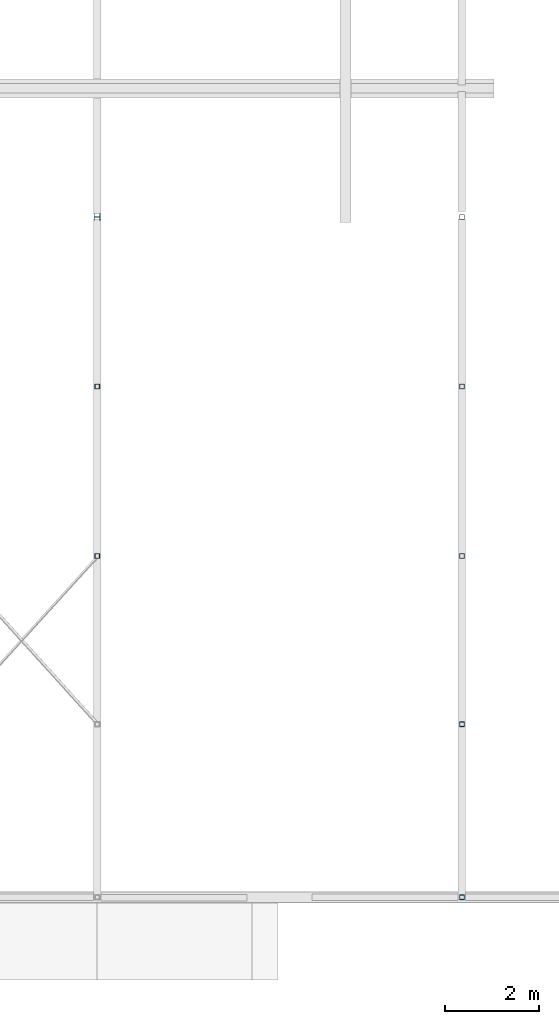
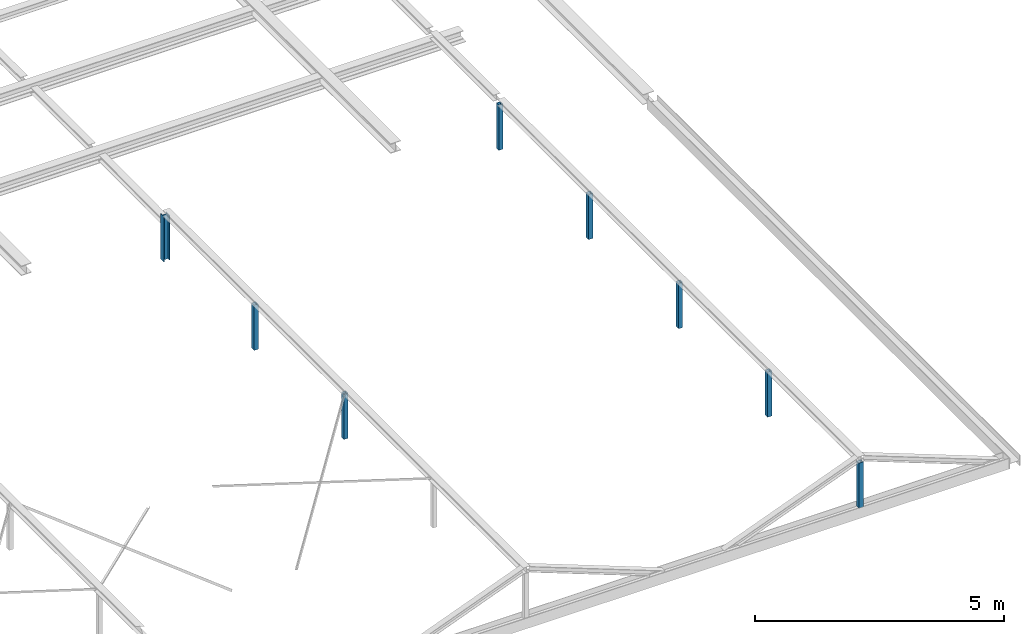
# One storey, part 2 of 10: 8 columns.
"""IFC2X3 building model written with IfcOpenShell, lengths in millimetres."""

from ifc_helpers import new_model, entity, si_unit, converted_unit, derived_unit, direction, frame, frame_2d, origin, place, context, subcontext, project, spatial, polyline, i_section, outline, extrude, source, transform, mapped, material, type_object, type_shapes, element, save


model = new_model("IFC2X3")

# Units and contexts
model_context = context("Model", 3, precision=0.01, world=origin(), true_north=direction((6.123031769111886e-17, 1.0)))
body_context = subcontext(model_context, "Body", "Model", "MODEL_VIEW")
ifc_project = project(units=[si_unit("LENGTHUNIT", "METRE", prefix="MILLI"), si_unit("AREAUNIT", "SQUARE_METRE", prefix="MILLI"), si_unit("VOLUMEUNIT", "CUBIC_METRE"), converted_unit("PLANEANGLEUNIT", "DEGREE", entity("IfcPlaneAngleMeasure", 0.017453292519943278), si_unit("PLANEANGLEUNIT", "RADIAN"), dimensions=[0, 0, 0, 0, 0, 0, 0]), si_unit("MASSUNIT", "GRAM", prefix="KILO"), derived_unit("MASSDENSITYUNIT", [(si_unit("MASSUNIT", "GRAM", prefix="KILO"), 1), (si_unit("LENGTHUNIT", "METRE"), -3)]), derived_unit("IONCONCENTRATIONUNIT", [(si_unit("MASSUNIT", "GRAM", prefix="KILO"), 1), (si_unit("LENGTHUNIT", "METRE"), -3)]), derived_unit("MOMENTOFINERTIAUNIT", [(si_unit("LENGTHUNIT", "METRE"), 4)]), si_unit("TIMEUNIT", "SECOND"), si_unit("FREQUENCYUNIT", "HERTZ"), si_unit("THERMODYNAMICTEMPERATUREUNIT", "DEGREE_CELSIUS"), derived_unit("THERMALTRANSMITTANCEUNIT", [(si_unit("MASSUNIT", "GRAM", prefix="KILO"), 1), (si_unit("THERMODYNAMICTEMPERATUREUNIT", "KELVIN"), -1), (si_unit("TIMEUNIT", "SECOND"), -3)]), derived_unit("THERMALCONDUCTANCEUNIT", [(si_unit("MASSUNIT", "GRAM", prefix="KILO"), 1), (si_unit("THERMODYNAMICTEMPERATUREUNIT", "KELVIN"), -1), (si_unit("TIMEUNIT", "SECOND"), -3), (si_unit("LENGTHUNIT", "METRE"), 1)]), derived_unit("VOLUMETRICFLOWRATEUNIT", [(si_unit("LENGTHUNIT", "METRE", prefix="DECI"), 3), (si_unit("TIMEUNIT", "SECOND"), -1)]), derived_unit("MASSFLOWRATEUNIT", [(si_unit("MASSUNIT", "GRAM", prefix="KILO"), 1), (si_unit("TIMEUNIT", "SECOND"), -1)]), derived_unit("ROTATIONALFREQUENCYUNIT", [(si_unit("TIMEUNIT", "SECOND"), -1)]), si_unit("ELECTRICCURRENTUNIT", "AMPERE"), si_unit("ELECTRICVOLTAGEUNIT", "VOLT"), si_unit("POWERUNIT", "WATT"), si_unit("FORCEUNIT", "NEWTON", prefix="KILO"), si_unit("ILLUMINANCEUNIT", "LUX"), si_unit("LUMINOUSFLUXUNIT", "LUMEN"), si_unit("LUMINOUSINTENSITYUNIT", "CANDELA"), si_unit("ENERGYUNIT", "JOULE"), derived_unit("USERDEFINED", [(si_unit("MASSUNIT", "GRAM", prefix="KILO"), -1), (si_unit("LENGTHUNIT", "METRE"), -2), (si_unit("TIMEUNIT", "SECOND"), 3), (si_unit("LUMINOUSFLUXUNIT", "LUMEN"), 1)]), derived_unit("USERDEFINED", [(si_unit("MASSUNIT", "GRAM", prefix="KILO"), 1), (si_unit("TIMEUNIT", "SECOND"), -3), (si_unit("LENGTHUNIT", "METRE"), 3), (si_unit("ELECTRICCURRENTUNIT", "AMPERE"), -2)]), derived_unit("SOUNDPOWERUNIT", [(si_unit("MASSUNIT", "GRAM", prefix="KILO"), 1), (si_unit("TIMEUNIT", "SECOND"), -3), (si_unit("LENGTHUNIT", "METRE"), 2)]), derived_unit("SOUNDPRESSUREUNIT", [(si_unit("MASSUNIT", "GRAM", prefix="KILO"), 1), (si_unit("LENGTHUNIT", "METRE"), -1), (si_unit("TIMEUNIT", "SECOND"), -2)]), derived_unit("LINEARVELOCITYUNIT", [(si_unit("LENGTHUNIT", "METRE"), 1), (si_unit("TIMEUNIT", "SECOND"), -1)]), si_unit("PRESSUREUNIT", "PASCAL"), derived_unit("USERDEFINED", [(si_unit("MASSUNIT", "GRAM", prefix="KILO"), 1), (si_unit("LENGTHUNIT", "METRE"), -2), (si_unit("TIMEUNIT", "SECOND"), -2)]), derived_unit("LINEARFORCEUNIT", [(si_unit("MASSUNIT", "GRAM", prefix="KILO"), 1), (si_unit("TIMEUNIT", "SECOND"), -2)]), derived_unit("PLANARFORCEUNIT", [(si_unit("MASSUNIT", "GRAM", prefix="KILO"), 1), (si_unit("LENGTHUNIT", "METRE"), -1), (si_unit("TIMEUNIT", "SECOND"), -2)]), derived_unit("SPECIFICHEATCAPACITYUNIT", [(si_unit("THERMODYNAMICTEMPERATUREUNIT", "KELVIN"), -1), (si_unit("LENGTHUNIT", "METRE"), 2), (si_unit("TIMEUNIT", "SECOND"), -2)]), derived_unit("HEATFLUXDENSITYUNIT", [(si_unit("MASSUNIT", "GRAM", prefix="KILO"), 1), (si_unit("TIMEUNIT", "SECOND"), -3)]), derived_unit("HEATINGVALUEUNIT", [(si_unit("LENGTHUNIT", "METRE"), 2), (si_unit("TIMEUNIT", "SECOND"), -2)]), derived_unit("VAPORPERMEABILITYUNIT", [(si_unit("LENGTHUNIT", "METRE"), -1), (si_unit("TIMEUNIT", "SECOND"), 1)]), derived_unit("DYNAMICVISCOSITYUNIT", [(si_unit("MASSUNIT", "GRAM", prefix="KILO"), 1), (si_unit("TIMEUNIT", "SECOND"), -1), (si_unit("LENGTHUNIT", "METRE"), -1)]), derived_unit("THERMALEXPANSIONCOEFFICIENTUNIT", [(si_unit("THERMODYNAMICTEMPERATUREUNIT", "KELVIN"), -1)]), derived_unit("MODULUSOFELASTICITYUNIT", [(si_unit("MASSUNIT", "GRAM", prefix="KILO"), 1), (si_unit("LENGTHUNIT", "METRE"), -1), (si_unit("TIMEUNIT", "SECOND"), -2)]), derived_unit("ISOTHERMALMOISTURECAPACITYUNIT", [(si_unit("MASSUNIT", "GRAM", prefix="KILO"), -1), (si_unit("LENGTHUNIT", "METRE"), 3)]), derived_unit("MOISTUREDIFFUSIVITYUNIT", [(si_unit("TIMEUNIT", "SECOND"), -1), (si_unit("LENGTHUNIT", "METRE"), 2)]), derived_unit("MASSPERLENGTHUNIT", [(si_unit("MASSUNIT", "GRAM", prefix="KILO"), 1), (si_unit("LENGTHUNIT", "METRE"), -1)]), derived_unit("THERMALRESISTANCEUNIT", [(si_unit("MASSUNIT", "GRAM", prefix="KILO"), -1), (si_unit("TIMEUNIT", "SECOND"), 3), (si_unit("THERMODYNAMICTEMPERATUREUNIT", "KELVIN"), 1)]), derived_unit("ACCELERATIONUNIT", [(si_unit("LENGTHUNIT", "METRE"), 1), (si_unit("TIMEUNIT", "SECOND"), -2)]), derived_unit("ANGULARVELOCITYUNIT", [(si_unit("TIMEUNIT", "SECOND"), -1), (si_unit("PLANEANGLEUNIT", "RADIAN"), 1)]), derived_unit("LINEARSTIFFNESSUNIT", [(si_unit("MASSUNIT", "GRAM", prefix="KILO"), 1), (si_unit("TIMEUNIT", "SECOND"), -2)]), derived_unit("WARPINGCONSTANTUNIT", [(si_unit("LENGTHUNIT", "METRE"), 6)]), derived_unit("LINEARMOMENTUNIT", [(si_unit("MASSUNIT", "GRAM", prefix="KILO"), 1), (si_unit("LENGTHUNIT", "METRE"), 1), (si_unit("TIMEUNIT", "SECOND"), -2)]), derived_unit("TORQUEUNIT", [(si_unit("MASSUNIT", "GRAM", prefix="KILO"), 1), (si_unit("LENGTHUNIT", "METRE"), 2), (si_unit("TIMEUNIT", "SECOND"), -2)])], contexts=[model_context])

# Site, building, storey
site_placement = place(None, origin())
site = spatial("IfcSite", under=ifc_project, at=site_placement, Name="Default", CompositionType="ELEMENT")
building_placement = place(site_placement, origin())
building = spatial("IfcBuilding", under=site, at=building_placement, CompositionType="ELEMENT")
storey_placement = place(building_placement, frame((0.0, 0.0, 11700.0)))
storey = spatial("IfcBuildingStorey", under=building, at=storey_placement, Name="V4 BK metselwerk", CompositionType="ELEMENT", Elevation=11699.999999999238)

# Columns
ifc_material_1 = material(Name="Metal - Steel - S235 JRG2 (standaard)")
column_type_1 = type_object("IfcColumnType", Name="btk_staal - HE(a-b-m):HEA140", PredefinedType="COLUMN", material=ifc_material_1)
shared_shape_1 = source(origin(), body_context, "Body", "SweptSolid", [
    extrude(i_section(OverallWidth=140.00000000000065, OverallDepth=133.00000000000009, WebThickness=5.500000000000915, FlangeThickness=8.500000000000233, at=frame_2d((1.0800249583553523e-12, 2.1600499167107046e-12), x_axis=(1.0, 0.0))), frame((17974.98614212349, 17494.605013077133, 10850.0), z_axis=(0.0, 0.0, 1.0), x_axis=(0.0, -1.0, 0.0)), (0.0, 0.0, 1.0), 1106.9999999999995),
])
type_shapes(column_type_1, [shared_shape_1])
column_1_placement = place(storey_placement, frame((0.0, 0.0, -11700.0)))
element("IfcColumn", 1, at=column_1_placement, inside=storey, type_object=column_type_1, material=ifc_material_1, Name="btk_staal - HE(a-b-m):HEA140", ObjectType="btk_staal - HE(a-b-m):HEA140", context=body_context, shape_type="MappedRepresentation", body=[
    mapped(shared_shape_1, transform((0.0, 0.0, 0.0), scale=1.0)),
])
ifc_material_2 = material(Name="Metal - Steel - S275 J0H (standaard-kokers/buizen)")
column_type_2 = type_object("IfcColumnType", Name="btk_staal - Koker:K100x100x5.0", PredefinedType="COLUMN", material=ifc_material_2)
shared_shape_2 = source(origin(), body_context, "Body", "SweptSolid", [
    extrude(outline(polyline([(-50.0, -50.0), (50.0, -50.0), (50.0, 50.0), (-50.0, 50.0), (-50.0, -50.0)]), holes=[polyline([(-45.0, -45.0), (-45.0, 45.0), (45.0, 45.0), (45.0, -45.0), (-45.0, -45.0)])]), frame((25724.07989212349, 17494.605013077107, 10850.0), z_axis=(0.0, 0.0, 1.0), x_axis=(0.0, -1.0, 0.0)), (0.0, 0.0, 1.0), 1106.9999999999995),
])
type_shapes(column_type_2, [shared_shape_2])
column_2_placement = place(storey_placement, frame((0.0, 0.0, -11700.0)))
element("IfcColumn", 2, at=column_2_placement, inside=storey, type_object=column_type_2, material=ifc_material_2, Name="btk_staal - Koker:K100x100x5.0", ObjectType="btk_staal - Koker:K100x100x5.0", context=body_context, shape_type="MappedRepresentation", body=[
    mapped(shared_shape_2, transform((0.0, 0.0, 0.0), scale=1.0)),
])
column_type_3 = type_object("IfcColumnType", Name="btk_staal - Koker:K100x100x5.0", PredefinedType="COLUMN", material=ifc_material_2)
shared_shape_3 = source(origin(), body_context, "Body", "SweptSolid", [
    extrude(outline(polyline([(-50.0, -50.0), (50.0, -50.0), (50.0, 50.0), (-50.0, 50.0), (-50.0, -50.0)]), holes=[polyline([(-45.0, -45.0), (-45.0, 45.0), (45.0, 45.0), (45.0, -45.0), (-45.0, -45.0)])]), frame((25724.079892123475, 3047.605013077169, 10850.0), z_axis=(0.0, 0.0, 1.0), x_axis=(0.0, -1.0, 0.0)), (0.0, 0.0, 1.0), 1106.9999999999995),
])
type_shapes(column_type_3, [shared_shape_3])
column_3_placement = place(storey_placement, frame((0.0, 0.0, -11700.0)))
element("IfcColumn", 3, at=column_3_placement, inside=storey, type_object=column_type_3, material=ifc_material_2, Name="btk_staal - Koker:K100x100x5.0", ObjectType="btk_staal - Koker:K100x100x5.0", context=body_context, shape_type="MappedRepresentation", body=[
    mapped(shared_shape_3, transform((0.0, 0.0, 0.0), scale=1.0)),
])
column_type_4 = type_object("IfcColumnType", Name="btk_staal - Koker:K100x100x5.0", PredefinedType="COLUMN", material=ifc_material_2)
shared_shape_4 = source(origin(), body_context, "Body", "SweptSolid", [
    extrude(outline(polyline([(-50.0, -50.0), (50.0, -50.0), (50.0, 50.0), (-50.0, 50.0), (-50.0, -50.0)]), holes=[polyline([(-45.0, -45.0), (-45.0, 45.0), (45.0, 45.0), (45.0, -45.0), (-45.0, -45.0)])]), frame((17974.98614212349, 13894.60501307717, 10850.0), z_axis=(0.0, 0.0, 1.0), x_axis=(0.0, -1.0, 0.0)), (0.0, 0.0, 1.0), 1106.9999999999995),
])
type_shapes(column_type_4, [shared_shape_4])
column_4_placement = place(storey_placement, frame((0.0, 0.0, -11700.0)))
element("IfcColumn", 4, at=column_4_placement, inside=storey, type_object=column_type_4, material=ifc_material_2, Name="btk_staal - Koker:K100x100x5.0", ObjectType="btk_staal - Koker:K100x100x5.0", context=body_context, shape_type="MappedRepresentation", body=[
    mapped(shared_shape_4, transform((0.0, 0.0, 0.0), scale=1.0)),
])
column_type_5 = type_object("IfcColumnType", Name="btk_staal - Koker:K100x100x5.0", PredefinedType="COLUMN", material=ifc_material_2)
shared_shape_5 = source(origin(), body_context, "Body", "SweptSolid", [
    extrude(outline(polyline([(-50.0, -50.0), (50.0, -50.0), (50.0, 50.0), (-50.0, 50.0), (-50.0, -50.0)]), holes=[polyline([(-45.0, -45.0), (-45.0, 45.0), (45.0, 45.0), (45.0, -45.0), (-45.0, -45.0)])]), frame((25724.07989212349, 13894.605013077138, 10850.0), z_axis=(0.0, 0.0, 1.0), x_axis=(0.0, -1.0, 0.0)), (0.0, 0.0, 1.0), 1106.9999999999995),
])
type_shapes(column_type_5, [shared_shape_5])
column_5_placement = place(storey_placement, frame((0.0, 0.0, -11700.0)))
element("IfcColumn", 5, at=column_5_placement, inside=storey, type_object=column_type_5, material=ifc_material_2, Name="btk_staal - Koker:K100x100x5.0", ObjectType="btk_staal - Koker:K100x100x5.0", context=body_context, shape_type="MappedRepresentation", body=[
    mapped(shared_shape_5, transform((0.0, 0.0, 0.0), scale=1.0)),
])
column_type_6 = type_object("IfcColumnType", Name="btk_staal - Koker:K100x100x5.0", PredefinedType="COLUMN", material=ifc_material_2)
shared_shape_6 = source(origin(), body_context, "Body", "SweptSolid", [
    extrude(outline(polyline([(-50.0, -50.0), (50.0, -50.0), (50.0, 50.0), (-50.0, 50.0), (-50.0, -50.0)]), holes=[polyline([(-45.0, -45.0), (-45.0, 45.0), (45.0, 45.0), (45.0, -45.0), (-45.0, -45.0)])]), frame((17974.98614212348, 10294.605013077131, 10850.0), z_axis=(0.0, 0.0, 1.0), x_axis=(0.0, -1.0, 0.0)), (0.0, 0.0, 1.0), 1106.9999999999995),
])
type_shapes(column_type_6, [shared_shape_6])
column_6_placement = place(storey_placement, frame((0.0, 0.0, -11700.0)))
element("IfcColumn", 6, at=column_6_placement, inside=storey, type_object=column_type_6, material=ifc_material_2, Name="btk_staal - Koker:K100x100x5.0", ObjectType="btk_staal - Koker:K100x100x5.0", context=body_context, shape_type="MappedRepresentation", body=[
    mapped(shared_shape_6, transform((0.0, 0.0, 0.0), scale=1.0)),
])
column_type_7 = type_object("IfcColumnType", Name="btk_staal - Koker:K100x100x5.0", PredefinedType="COLUMN", material=ifc_material_2)
shared_shape_7 = source(origin(), body_context, "Body", "SweptSolid", [
    extrude(outline(polyline([(-50.0, -50.0), (50.0, -50.0), (50.0, 50.0), (-50.0, 50.0), (-50.0, -50.0)]), holes=[polyline([(-45.0, -45.0), (-45.0, 45.0), (45.0, 45.0), (45.0, -45.0), (-45.0, -45.0)])]), frame((25724.079892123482, 10294.605013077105, 10850.0), z_axis=(0.0, 0.0, 1.0), x_axis=(0.0, -1.0, 0.0)), (0.0, 0.0, 1.0), 1106.9999999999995),
])
type_shapes(column_type_7, [shared_shape_7])
column_7_placement = place(storey_placement, frame((0.0, 0.0, -11700.0)))
element("IfcColumn", 7, at=column_7_placement, inside=storey, type_object=column_type_7, material=ifc_material_2, Name="btk_staal - Koker:K100x100x5.0", ObjectType="btk_staal - Koker:K100x100x5.0", context=body_context, shape_type="MappedRepresentation", body=[
    mapped(shared_shape_7, transform((0.0, 0.0, 0.0), scale=1.0)),
])
column_type_8 = type_object("IfcColumnType", Name="btk_staal - Koker:K100x100x5.0", PredefinedType="COLUMN", material=ifc_material_2)
shared_shape_8 = source(origin(), body_context, "Body", "SweptSolid", [
    extrude(outline(polyline([(-50.0, -50.0), (50.0, -50.0), (50.0, 50.0), (-50.0, 50.0), (-50.0, -50.0)]), holes=[polyline([(-45.0, -45.0), (-45.0, 45.0), (45.0, 45.0), (45.0, -45.0), (-45.0, -45.0)])]), frame((25724.079892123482, 6719.605013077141, 10850.0), z_axis=(0.0, 0.0, 1.0), x_axis=(0.0, -1.0, 0.0)), (0.0, 0.0, 1.0), 1106.9999999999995),
])
type_shapes(column_type_8, [shared_shape_8])
column_8_placement = place(storey_placement, frame((0.0, 0.0, -11700.0)))
element("IfcColumn", 8, at=column_8_placement, inside=storey, type_object=column_type_8, material=ifc_material_2, Name="btk_staal - Koker:K100x100x5.0", ObjectType="btk_staal - Koker:K100x100x5.0", context=body_context, shape_type="MappedRepresentation", body=[
    mapped(shared_shape_8, transform((0.0, 0.0, 0.0), scale=1.0)),
])

save(model, "model.ifc")
